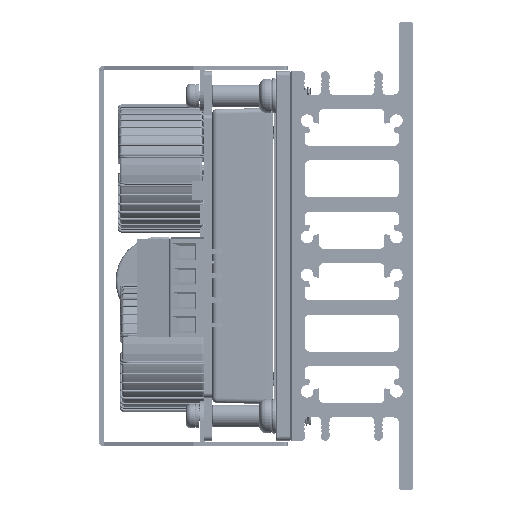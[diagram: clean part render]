
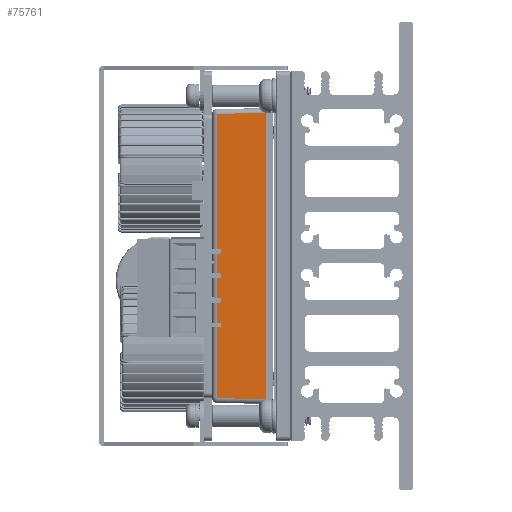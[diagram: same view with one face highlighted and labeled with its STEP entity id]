
A CAD part, left-side view. The second image highlights one B-rep face of the part: STEP entity #75761.
In plain terms, the highlighted planar face has unit normal (-1, 0.018, 0).
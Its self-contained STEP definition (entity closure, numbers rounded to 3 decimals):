
#11130 = VERTEX_POINT ( 'NONE', #146519 ) ;
#11140 = VERTEX_POINT ( 'NONE', #192320 ) ;
#16837 = DIRECTION ( 'NONE',  ( 0.017, 1., 0. ) ) ;
#18611 = EDGE_CURVE ( 'NONE', #144579, #56359, #28964, .T. ) ;
#18971 = CARTESIAN_POINT ( 'NONE',  ( -6.276, 9.047, -29.482 ) ) ;
#20944 = FACE_OUTER_BOUND ( 'NONE', #73869, .T. ) ;
#21929 = LINE ( 'NONE', #85422, #112341 ) ;
#23451 = ORIENTED_EDGE ( 'NONE', *, *, #152593, .T. ) ;
#28964 = LINE ( 'NONE', #59150, #62330 ) ;
#29977 = DIRECTION ( 'NONE',  ( 0., 0., 1. ) ) ;
#38446 = ORIENTED_EDGE ( 'NONE', *, *, #146808, .T. ) ;
#56359 = VERTEX_POINT ( 'NONE', #76758 ) ;
#59150 = CARTESIAN_POINT ( 'NONE',  ( -6.294, 8., -30.5 ) ) ;
#62330 = VECTOR ( 'NONE', #29977, 1000. ) ;
#62377 = CARTESIAN_POINT ( 'NONE',  ( -6.294, 8., -29.5 ) ) ;
#63227 = EDGE_CURVE ( 'NONE', #11130, #11140, #21929, .T. ) ;
#73869 = EDGE_LOOP ( 'NONE', ( #104564, #38446, #185195, #23451 ) ) ;
#75761 = ADVANCED_FACE ( 'NONE', ( #20944 ), #96987, .T. ) ;
#76758 = CARTESIAN_POINT ( 'NONE',  ( -6.294, 8., 29.5 ) ) ;
#80878 = DIRECTION ( 'NONE',  ( 0.017, 1., -0.017 ) ) ;
#85422 = CARTESIAN_POINT ( 'NONE',  ( -6.117, 18.117, -30.306 ) ) ;
#96987 = PLANE ( 'NONE',  #130649 ) ;
#98936 = VECTOR ( 'NONE', #129355, 1000. ) ;
#103107 = DIRECTION ( 'NONE',  ( 0., 0., -1. ) ) ;
#104564 = ORIENTED_EDGE ( 'NONE', *, *, #18611, .T. ) ;
#111607 = CARTESIAN_POINT ( 'NONE',  ( -6.294, 8., 30.5 ) ) ;
#112341 = VECTOR ( 'NONE', #103107, 1000. ) ;
#129355 = DIRECTION ( 'NONE',  ( -0.017, -1., -0.017 ) ) ;
#130649 = AXIS2_PLACEMENT_3D ( 'NONE', #111607, #175096, #16837 ) ;
#142906 = LINE ( 'NONE', #18971, #98936 ) ;
#144579 = VERTEX_POINT ( 'NONE', #62377 ) ;
#146519 = CARTESIAN_POINT ( 'NONE',  ( -6.117, 18.117, 29.324 ) ) ;
#146808 = EDGE_CURVE ( 'NONE', #56359, #11130, #160018, .T. ) ;
#152593 = EDGE_CURVE ( 'NONE', #11140, #144579, #142906, .T. ) ;
#160018 = LINE ( 'NONE', #162070, #185028 ) ;
#162070 = CARTESIAN_POINT ( 'NONE',  ( -6.294, 7.983, 29.5 ) ) ;
#175096 = DIRECTION ( 'NONE',  ( -1., 0.017, 0. ) ) ;
#185028 = VECTOR ( 'NONE', #80878, 1000. ) ;
#185195 = ORIENTED_EDGE ( 'NONE', *, *, #63227, .T. ) ;
#192320 = CARTESIAN_POINT ( 'NONE',  ( -6.117, 18.117, -29.324 ) ) ;
